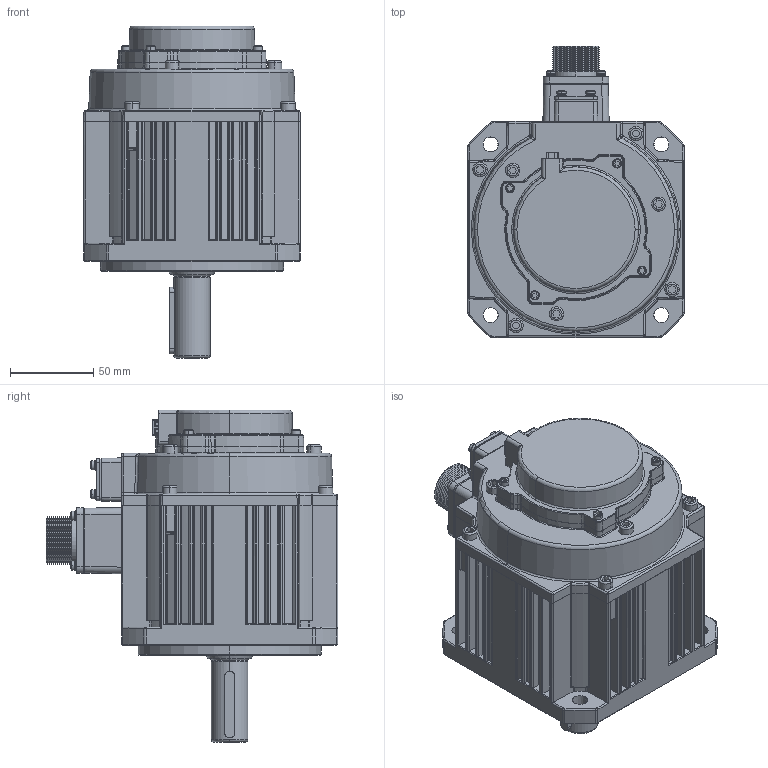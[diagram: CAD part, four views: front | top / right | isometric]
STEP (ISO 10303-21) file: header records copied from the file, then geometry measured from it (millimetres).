
FILE_DESCRIPTION (( 'STEP AP203' ), '1' );
FILE_NAME ('G3系列130伺服-850W刹车电机三维图-三竹插拔式.STEP', '2023-09-27T08:55:00', ( '微软用户' ), ( '微软中国' ), 'SwSTEP 2.0', 'SolidWorks 2016', '' );
FILE_SCHEMA (( 'CONFIG_CONTROL_DESIGN' ));
Products named in the file (1): G3系列130伺服-850W刹车电机三维图-三竹插拔式
Bounding box: 130 x 175.3 x 199.5 mm (x, y, z)
Surface area: 278176.2 mm2 (no closed solid volume)
Topology: 0 solids, 30 shells, 3951 faces, 10090 edges, 6311 vertices
Faces by surface type: plane 1670, cylinder 870, cone 552, bspline 509, torus 275, sphere 75
Entity records: 136210 total; most frequent: CARTESIAN_POINT 43634, ORIENTED_EDGE 19948, DIRECTION 18307, EDGE_CURVE 9988, AXIS2_PLACEMENT_3D 6314, VERTEX_POINT 6299, VECTOR 5679, LINE 5679
